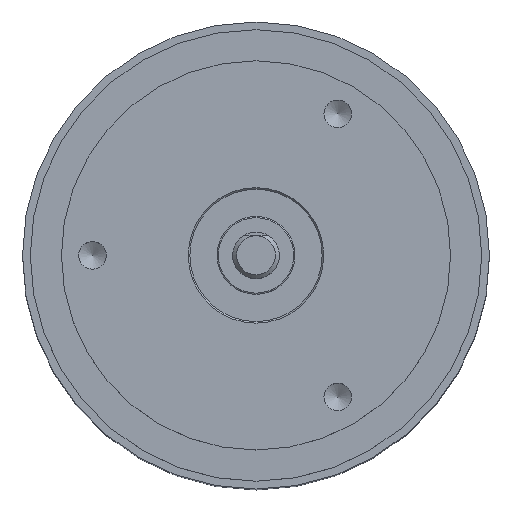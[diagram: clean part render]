
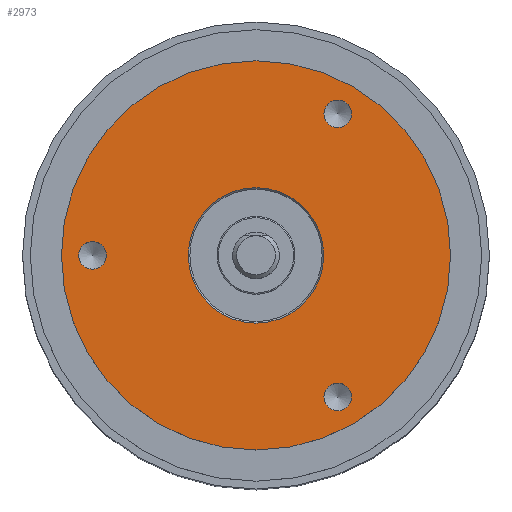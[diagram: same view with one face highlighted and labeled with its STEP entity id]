
A CAD part, top view. The second image highlights one B-rep face of the part: STEP entity #2973.
In plain terms, the highlighted planar face has unit normal (0, 0, 1).
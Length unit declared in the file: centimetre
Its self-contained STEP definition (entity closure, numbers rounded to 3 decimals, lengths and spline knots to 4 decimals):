
#469=PLANE('',#3276);
#589=VERTEX_POINT('',#3799);
#592=VERTEX_POINT('',#3806);
#595=VERTEX_POINT('',#3813);
#601=VERTEX_POINT('',#3830);
#602=VERTEX_POINT('',#3833);
#873=CIRCLE('',#3256,0.1773);
#875=CIRCLE('',#3260,0.1773);
#877=CIRCLE('',#3264,0.1773);
#883=CIRCLE('',#3275,2.5);
#884=CIRCLE('',#3277,0.87);
#1110=EDGE_CURVE('',#589,#589,#873,.T.);
#1112=EDGE_CURVE('',#592,#592,#875,.T.);
#1114=EDGE_CURVE('',#595,#595,#877,.T.);
#1120=EDGE_CURVE('',#601,#601,#883,.T.);
#1121=EDGE_CURVE('',#602,#602,#884,.T.);
#1495=ORIENTED_EDGE('',*,*,#1110,.T.);
#1496=ORIENTED_EDGE('',*,*,#1112,.T.);
#1497=ORIENTED_EDGE('',*,*,#1114,.T.);
#1498=ORIENTED_EDGE('',*,*,#1121,.F.);
#1499=ORIENTED_EDGE('',*,*,#1120,.T.);
#2177=EDGE_LOOP('',(#1495));
#2178=EDGE_LOOP('',(#1496));
#2179=EDGE_LOOP('',(#1497));
#2180=EDGE_LOOP('',(#1498));
#2181=EDGE_LOOP('',(#1499));
#2589=FACE_BOUND('',#2177,.T.);
#2590=FACE_BOUND('',#2178,.T.);
#2591=FACE_BOUND('',#2179,.T.);
#2592=FACE_BOUND('',#2180,.T.);
#2593=FACE_BOUND('',#2181,.T.);
#2973=ADVANCED_FACE('',(#2589,#2590,#2591,#2592,#2593),#469,.T.);
#3256=AXIS2_PLACEMENT_3D('',#3798,#4817,#4818);
#3260=AXIS2_PLACEMENT_3D('',#3805,#4825,#4826);
#3264=AXIS2_PLACEMENT_3D('',#3812,#4833,#4834);
#3275=AXIS2_PLACEMENT_3D('',#3829,#4853,#4854);
#3276=AXIS2_PLACEMENT_3D('',#3831,#4855,$);
#3277=AXIS2_PLACEMENT_3D('',#3832,#4856,#4857);
#3798=CARTESIAN_POINT('',(1.05,1.8187,1.4));
#3799=CARTESIAN_POINT('',(1.05,1.9959,1.4));
#3805=CARTESIAN_POINT('',(1.05,-1.8187,1.4));
#3806=CARTESIAN_POINT('',(1.05,-1.6414,1.4));
#3812=CARTESIAN_POINT('',(-2.1,0.,1.4));
#3813=CARTESIAN_POINT('',(-2.1,0.1773,1.4));
#3829=CARTESIAN_POINT('',(0.,0.,1.4));
#3830=CARTESIAN_POINT('',(0.,2.5,1.4));
#3831=CARTESIAN_POINT('',(0.,1.685,1.4));
#3832=CARTESIAN_POINT('',(0.,0.,1.4));
#3833=CARTESIAN_POINT('',(0.,0.87,1.4));
#4817=DIRECTION('',(0.,0.,-1.));
#4818=DIRECTION('',(0.,0.177,0.));
#4825=DIRECTION('',(0.,0.,-1.));
#4826=DIRECTION('',(0.,0.177,0.));
#4833=DIRECTION('',(0.,0.,-1.));
#4834=DIRECTION('',(0.,0.177,0.));
#4853=DIRECTION('',(0.,0.,1.));
#4854=DIRECTION('',(0.,2.5,0.));
#4855=DIRECTION('',(0.,0.,1.));
#4856=DIRECTION('',(0.,0.,1.));
#4857=DIRECTION('',(0.,0.87,0.));
